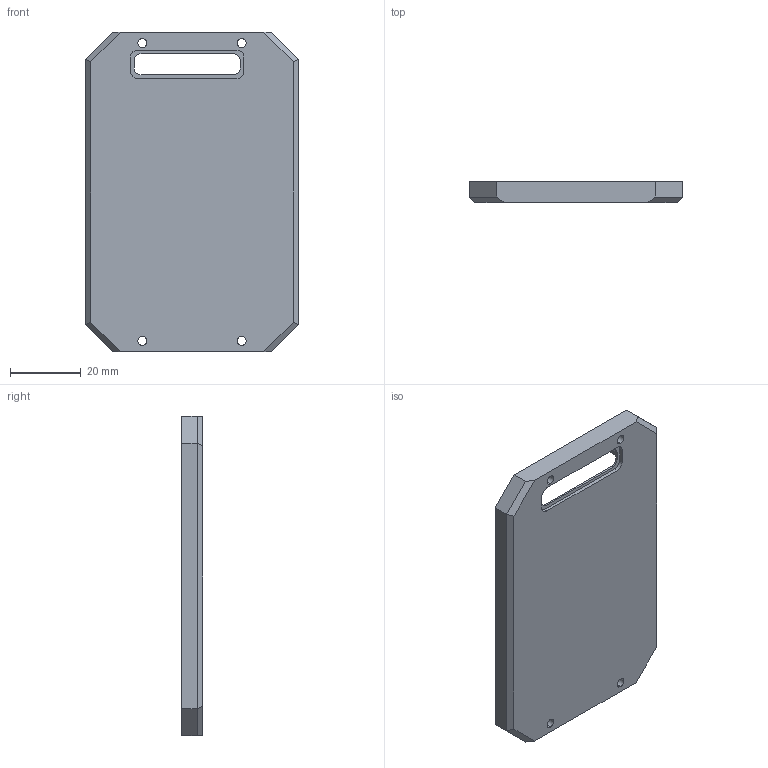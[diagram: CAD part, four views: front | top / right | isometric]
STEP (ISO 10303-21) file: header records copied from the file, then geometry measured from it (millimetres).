
FILE_DESCRIPTION(/* description */ ('VariCAD 2008 1.04 AP-203'),/* implementation_level */ '2;1');
FILE_NAME(/* name */ '0353-18-03',/* time_stamp */ '2008-07-02T15:49:14-06:00',/* author */ (''),/* organization */ (''),/* preprocessor_version */ 'ST-DEVELOPER v10',/* originating_system */ 'VariCAD 2008 1.04; kernel version (20071230)',/* authorisation */ '');
FILE_SCHEMA (('CONFIG_CONTROL_DESIGN'));
Length unit declared in the file: millimetre
Products named in the file (1): Part
Bounding box: 60 x 6 x 90 mm (x, y, z)
Volume: 14436 mm3; surface area: 13107.4 mm2
Topology: 1 solids, 1 shells, 51 faces, 140 edges, 92 vertices
Faces by surface type: plane 31, cylinder 20
Entity records: 1688 total; most frequent: DIRECTION 286, CARTESIAN_POINT 285, ORIENTED_EDGE 280, EDGE_CURVE 140, LINE 100, VECTOR 100, AXIS2_PLACEMENT_3D 93, VERTEX_POINT 92
